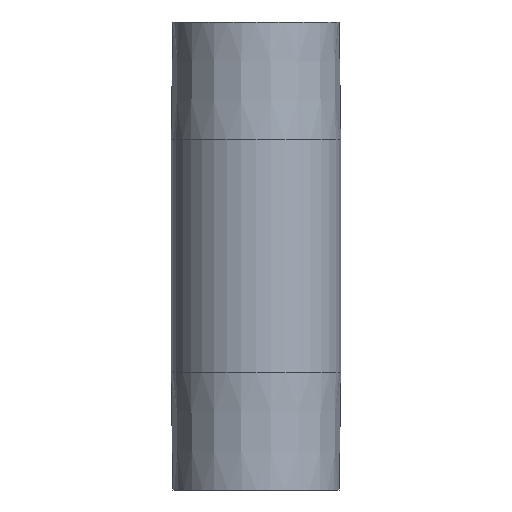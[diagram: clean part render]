
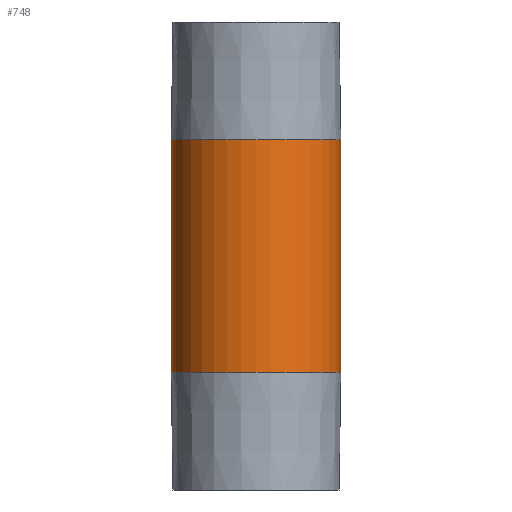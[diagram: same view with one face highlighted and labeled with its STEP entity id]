
A CAD part, front view. The second image highlights one B-rep face of the part: STEP entity #748.
In plain terms, the highlighted cylindrical face has radius 25 mm (diameter 50 mm), a partial arc.
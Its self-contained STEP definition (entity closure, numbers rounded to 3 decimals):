
#365 = VERTEX_POINT ( 'NONE', #1315 ) ;
#368 = VERTEX_POINT ( 'NONE', #1363 ) ;
#389 = VERTEX_POINT ( 'NONE', #1352 ) ;
#394 = VERTEX_POINT ( 'NONE', #1393 ) ;
#681 = EDGE_CURVE ( 'NONE', #389, #365, #1781, .T. ) ;
#741 = EDGE_CURVE ( 'NONE', #389, #394, #1864, .T. ) ;
#743 = ORIENTED_EDGE ( 'NONE', *, *, #741, .F. ) ;
#744 = ORIENTED_EDGE ( 'NONE', *, *, #745, .T. ) ;
#745 = EDGE_CURVE ( 'NONE', #365, #368, #1866, .T. ) ;
#746 = EDGE_LOOP ( 'NONE', ( #747, #743, #749, #744 ) ) ;
#747 = ORIENTED_EDGE ( 'NONE', *, *, #753, .F. ) ;
#748 = ADVANCED_FACE ( 'NONE', ( #1919 ), #1857, .T. ) ;
#749 = ORIENTED_EDGE ( 'NONE', *, *, #681, .T. ) ;
#753 = EDGE_CURVE ( 'NONE', #394, #368, #1900, .T. ) ;
#1315 = CARTESIAN_POINT ( 'NONE',  ( -25., 0., 34.75 ) ) ;
#1352 = CARTESIAN_POINT ( 'NONE',  ( -25., 0., 103.25 ) ) ;
#1363 = CARTESIAN_POINT ( 'NONE',  ( 25., 0., 34.75 ) ) ;
#1393 = CARTESIAN_POINT ( 'NONE',  ( 25., 0., 103.25 ) ) ;
#1777 = CARTESIAN_POINT ( 'NONE',  ( -25., 0., 138. ) ) ;
#1781 = LINE ( 'NONE', #1777, #1821 ) ;
#1820 = DIRECTION ( 'NONE',  ( 0., 0., -1. ) ) ;
#1821 = VECTOR ( 'NONE', #1820, 1000. ) ;
#1857 = CYLINDRICAL_SURFACE ( 'NONE', #1912, 25. ) ;
#1858 = DIRECTION ( 'NONE',  ( -1., 0., 0. ) ) ;
#1863 = AXIS2_PLACEMENT_3D ( 'NONE', #1922, #1921, #1920 ) ;
#1864 = CIRCLE ( 'NONE', #1863, 25. ) ;
#1866 = CIRCLE ( 'NONE', #1917, 25. ) ;
#1899 = VECTOR ( 'NONE', #1906, 1000. ) ;
#1900 = LINE ( 'NONE', #1905, #1899 ) ;
#1905 = CARTESIAN_POINT ( 'NONE',  ( 25., 0., 138. ) ) ;
#1906 = DIRECTION ( 'NONE',  ( 0., 0., -1. ) ) ;
#1911 = DIRECTION ( 'NONE',  ( 0., 0., -1. ) ) ;
#1912 = AXIS2_PLACEMENT_3D ( 'NONE', #1918, #1911, #1858 ) ;
#1914 = DIRECTION ( 'NONE',  ( 1., 0., 0. ) ) ;
#1915 = DIRECTION ( 'NONE',  ( 0., 0., 1. ) ) ;
#1916 = CARTESIAN_POINT ( 'NONE',  ( 0., 0., 34.75 ) ) ;
#1917 = AXIS2_PLACEMENT_3D ( 'NONE', #1916, #1915, #1914 ) ;
#1918 = CARTESIAN_POINT ( 'NONE',  ( 0., 0., 138. ) ) ;
#1919 = FACE_OUTER_BOUND ( 'NONE', #746, .T. ) ;
#1920 = DIRECTION ( 'NONE',  ( 1., 0., 0. ) ) ;
#1921 = DIRECTION ( 'NONE',  ( 0., 0., 1. ) ) ;
#1922 = CARTESIAN_POINT ( 'NONE',  ( 0., 0., 103.25 ) ) ;
